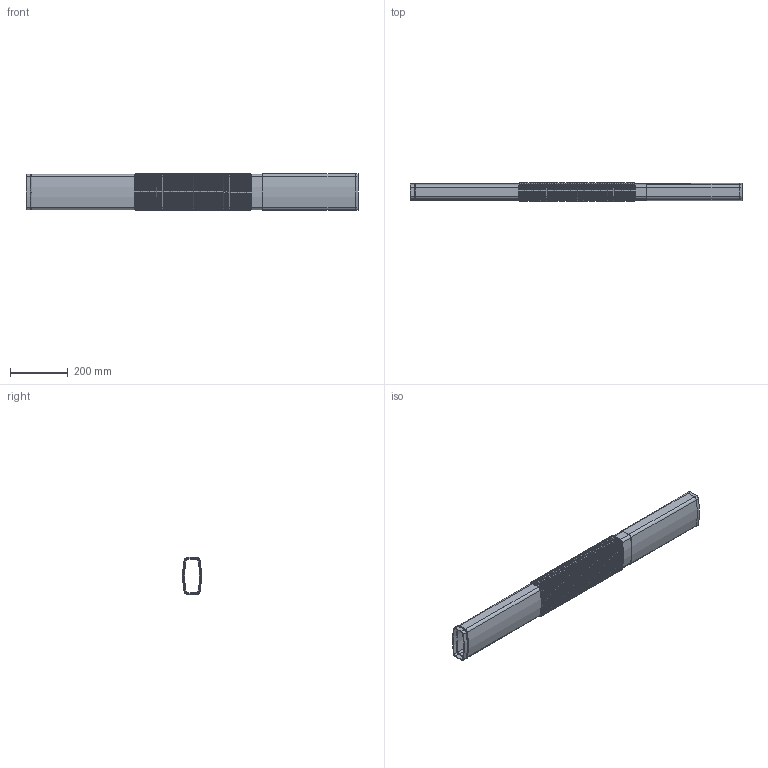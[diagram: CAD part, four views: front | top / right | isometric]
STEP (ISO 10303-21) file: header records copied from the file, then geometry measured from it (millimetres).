
FILE_DESCRIPTION (( 'STEP AP203' ), '1' );
FILE_NAME ('R5KLMCAT03.STEP', '2021-04-07T19:40:33', ( '' ), ( '' ), 'SwSTEP 2.0', 'SolidWorks 2020', '' );
FILE_SCHEMA (( 'CONFIG_CONTROL_DESIGN' ));
Products named in the file (1): R5KLMCAT03
Bounding box: 1150 x 64.45 x 128.6 mm (x, y, z)
Volume: 1296656.4 mm3; surface area: 866599 mm2
Topology: 2 solids, 2 shells, 3737 faces, 7501 edges, 3768 vertices
Faces by surface type: torus 1414, plane 1158, cylinder 1154, cone 7, bspline 4
Entity records: 129386 total; most frequent: CARTESIAN_POINT 49647, DIRECTION 19705, ORIENTED_EDGE 15002, AXIS2_PLACEMENT_3D 8478, EDGE_CURVE 7501, CIRCLE 4744, VERTEX_POINT 3768, EDGE_LOOP 3741
